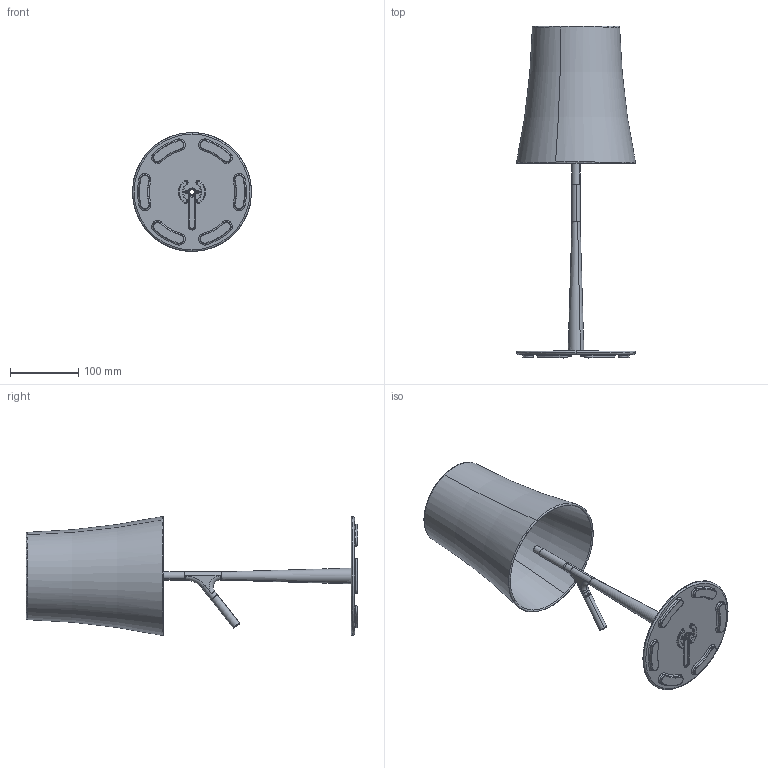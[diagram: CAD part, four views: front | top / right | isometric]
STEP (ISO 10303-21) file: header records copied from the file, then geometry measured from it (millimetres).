
FILE_DESCRIPTION (( 'STEP AP214' ), '1' );
FILE_NAME ('221_PICCOLA_T_XX.STEP', '2021-04-30T15:16:18', ( '' ), ( '' ), 'SwSTEP 2.0', 'SolidWorks 2021', '' );
FILE_SCHEMA (( 'AUTOMOTIVE_DESIGN' ));
Length unit declared in the file: millimetre
Products named in the file (7): 221M41; 221M22; 221M42; 221D012; 221M43; 221_PICCOLA_T_XX; 221M40
Assembly tree (6 placements, depth 2):
  221_PICCOLA_T_XX
    221M43
    221D012
    221M41
    221M22
    221M42
    221M40
Bounding box: 174.5 x 486.66 x 174.5 mm (x, y, z)
Volume: 478223.8 mm3; surface area: 271470.1 mm2
Topology: 6 solids, 6 shells, 248 faces, 569 edges, 338 vertices
Faces by surface type: torus 105, cone 72, cylinder 36, plane 25, bspline 10
Entity records: 9294 total; most frequent: CARTESIAN_POINT 3079, DIRECTION 1418, ORIENTED_EDGE 1128, AXIS2_PLACEMENT_3D 651, EDGE_CURVE 564, CIRCLE 404, VERTEX_POINT 338, EDGE_LOOP 274
